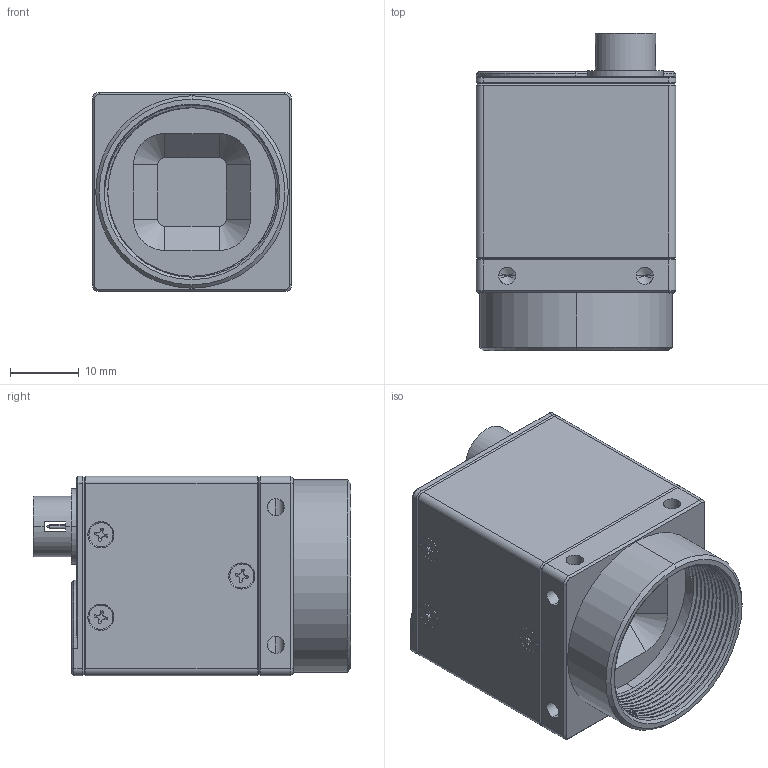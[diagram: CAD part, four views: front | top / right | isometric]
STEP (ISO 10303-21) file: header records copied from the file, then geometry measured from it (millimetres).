
FILE_DESCRIPTION (( 'STEP AP203' ), '1' );
FILE_NAME ('U3V-C.STEP', '2023-04-15T06:56:42', ( '' ), ( '' ), 'SwSTEP 2.0', 'SolidWorks 2022', '' );
FILE_SCHEMA (( 'CONFIG_CONTROL_DESIGN' ));
Length unit declared in the file: millimetre
Products named in the file (1): U3V-C
Bounding box: 29 x 46.2 x 29 mm (x, y, z)
Volume: 15999.6 mm3; surface area: 22138.6 mm2
Topology: 32 solids, 32 shells, 1333 faces, 3426 edges, 2165 vertices
Faces by surface type: cylinder 515, plane 510, cone 267, bspline 41
Entity records: 45306 total; most frequent: CARTESIAN_POINT 13712, ORIENTED_EDGE 6752, DIRECTION 6274, EDGE_CURVE 3376, AXIS2_PLACEMENT_3D 2291, VERTEX_POINT 2165, VECTOR 1692, LINE 1692
